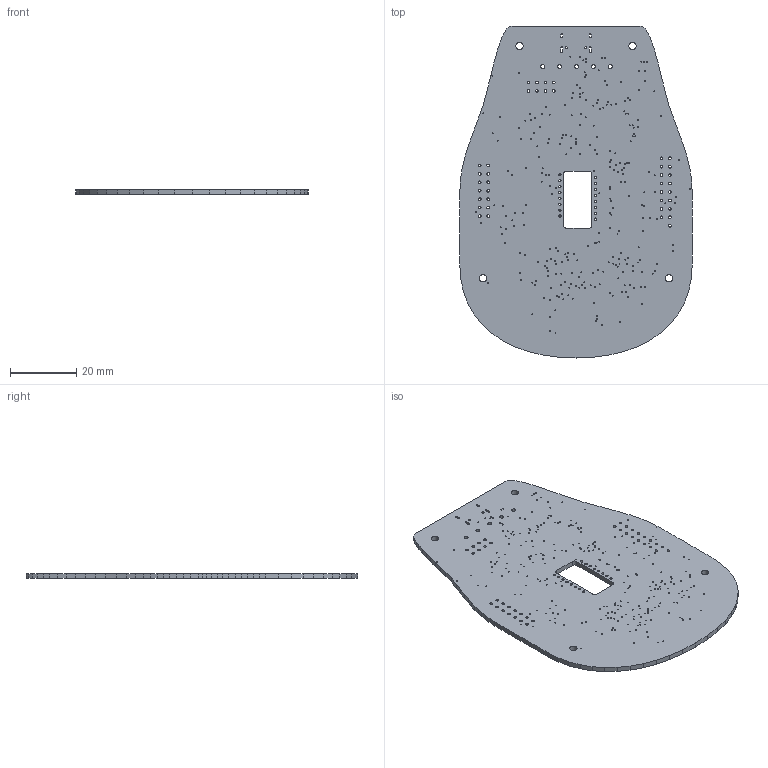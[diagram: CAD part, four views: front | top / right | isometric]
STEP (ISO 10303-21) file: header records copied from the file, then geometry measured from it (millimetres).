
FILE_DESCRIPTION(('KiCad electronic assembly'),'2;1');
FILE_NAME('Lower-bare.step','2026-11-05T00:07:06',('Pcbnew'),('Kicad'), 'Open CASCADE STEP processor 7.9','KiCad to STEP converter','Unknown' );
FILE_SCHEMA(('AUTOMOTIVE_DESIGN { 1 0 10303 214 1 1 1 1 }'));
Length unit declared in the file: millimetre
Products named in the file (2): Lower-bare 1; Lower_PCB
Assembly tree (1 placements, depth 2):
  Lower-bare 1
    Lower_PCB
Bounding box: 70 x 100 x 1.49 mm (x, y, z)
Volume: 8592 mm3; surface area: 12736 mm2
Topology: 1 solids, 1 shells, 465 faces, 1389 edges, 926 vertices
Faces by surface type: cylinder 354, plane 111
Full cylindrical faces by diameter (mm): 0.3 x276, 0.65 x2, 0.7 x16, 0.8 x39, 1.2 x5, 2.2 x4
Entity records: 17436 total; most frequent: DIRECTION 3031, CARTESIAN_POINT 2782, ORIENTED_EDGE 2778, EDGE_CURVE 1389, AXIS2_PLACEMENT_3D 1175, FACE_BOUND 1159, EDGE_LOOP 1159, VERTEX_POINT 926
